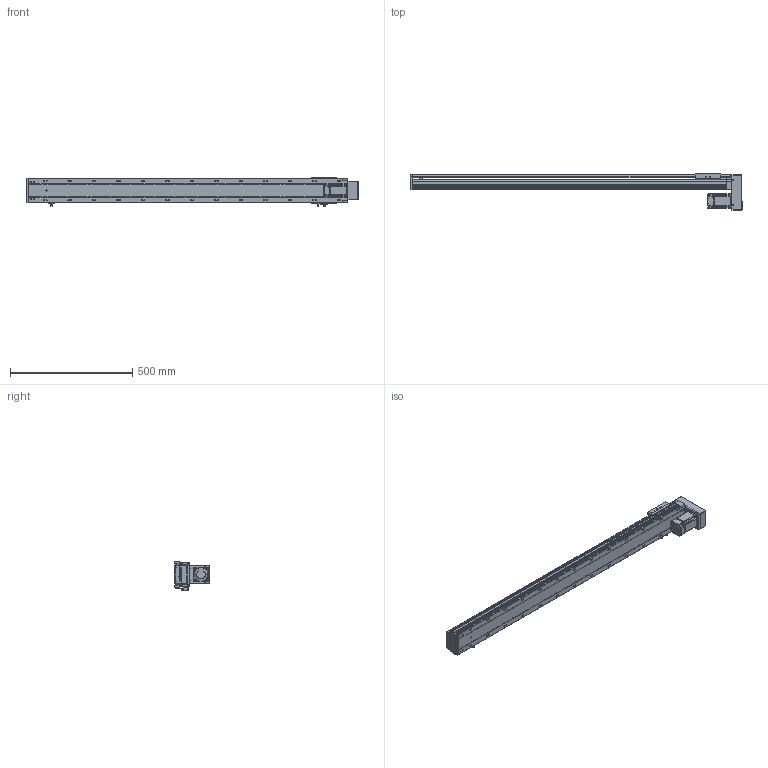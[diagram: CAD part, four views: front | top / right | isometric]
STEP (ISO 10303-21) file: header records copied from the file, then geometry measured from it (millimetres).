
FILE_DESCRIPTION (( 'STEP AP203' ), '1' );
FILE_NAME ('RY100S-L1620-950-BK(15双轨).SLDASM_1100.step', '2021-03-12T06:41:50', ( '盈信电脑' ), ( '东莞市道滘镇水果街19号' ), 'SwSTEP 2.0', 'SolidWorks 2012', '' );
FILE_SCHEMA (( 'CONFIG_CONTROL_DESIGN' ));
Length unit declared in the file: millimetre
Products named in the file (15): RY100S-L1620-950-BK(15邧寢).SLDASM_1100; 侂狟200W萇儂; RY100S-狟殏萇儂傷-BK(15邧寢)_350; RY100S下折电机安装板（15双轨）; RY100S狟殏萇儂欶(15邧寢); 滅袉蝶18-24; RY100綴裔啣; 1; 覜茼ん672; RY100S转折电机端支撑座(15双轨); 滅袉蝶18-10; RY100俋离覜茼え; RY100S-950-RK转折型材上盖(15双轨)_1100; RY100S铝滑块（15双轨单滑块）; RY100S-950-RK转折型材底座(15双轨)_1100
Assembly tree (17 placements, depth 4):
  RY100S-L1620-950-BK(15邧寢).SLDASM_1100
    RY100S-950-RK转折型材底座(15双轨)_1100
    RY100S-950-RK转折型材上盖(15双轨)_1100
    RY100S铝滑块（15双轨单滑块）
    覜茼ん672  x3
    滅袉蝶18-10  x2
    RY100俋离覜茼え
    RY100S转折电机端支撑座(15双轨)
    滅袉蝶18-24
    RY100綴裔啣
    RY100S-狟殏萇儂傷-BK(15邧寢)_350
      侂狟200W萇儂
        1
      RY100S下折电机安装板（15双轨）
      RY100S狟殏萇儂欶(15邧寢)
Bounding box: 1357 x 147 x 117.2 mm (x, y, z)
Volume: 2598827.3 mm3; surface area: 1142677.5 mm2
Topology: 15 solids, 15 shells, 2548 faces, 7201 edges, 4682 vertices
Faces by surface type: plane 1302, cylinder 1021, cone 137, bspline 88
Entity records: 84885 total; most frequent: CARTESIAN_POINT 22000, ORIENTED_EDGE 13210, DIRECTION 12266, EDGE_CURVE 6605, VERTEX_POINT 4350, AXIS2_PLACEMENT_3D 4153, LINE 3960, VECTOR 3960
